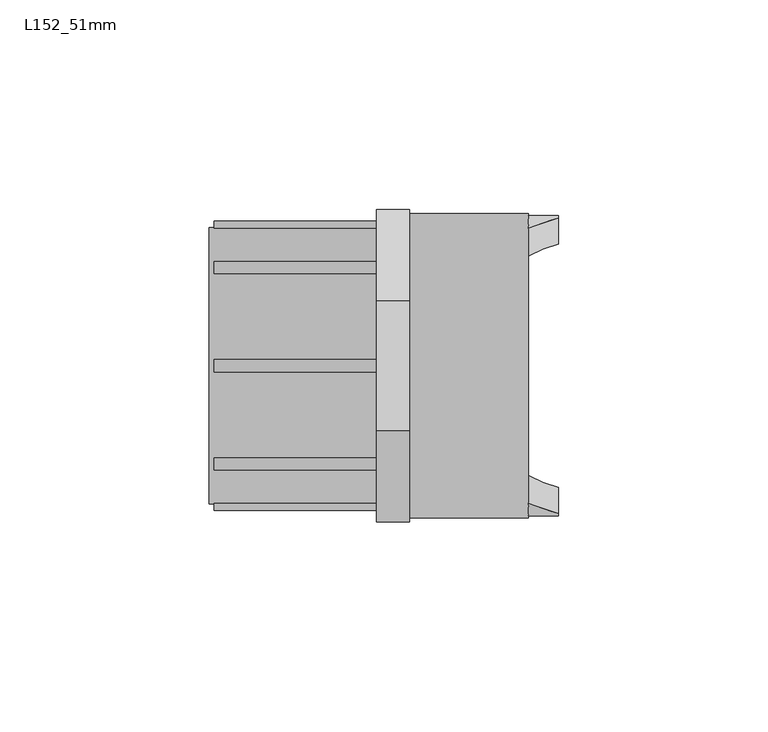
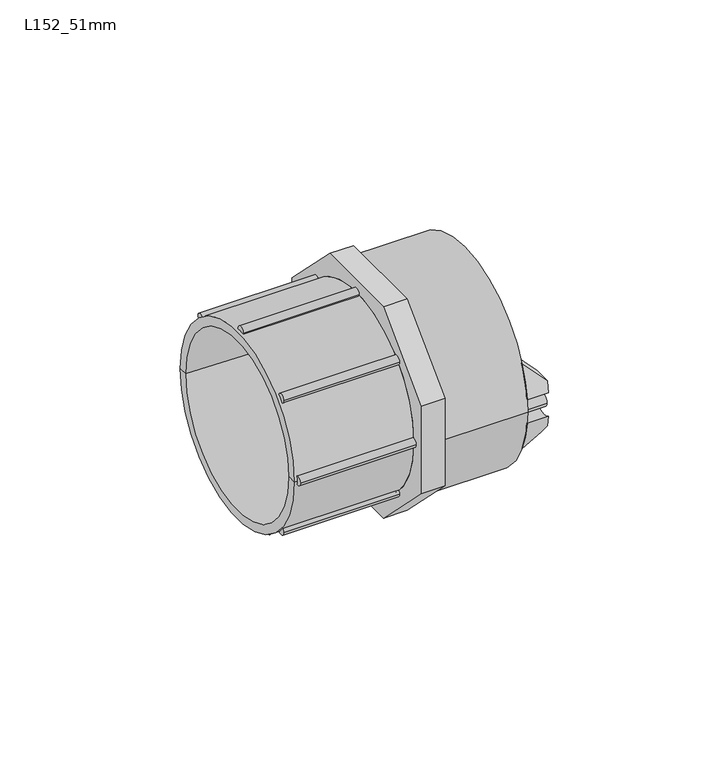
"""IFC4 building model written with IfcOpenShell, lengths in millimetres: pipe fitting geometry, Durapipe_PipeFitting_VulcatheneEnfusion_FItoPipeCoupler_L15 : L152_51mm."""

from ifc_helpers import new_model, si_unit, point, frame, frame_2d, origin, place, context, project, spatial, polyline, circle_curve, ellipse_curve, trimmed, segment, composite_curve, outline, extrude, source, transform, mapped, element, save
from ifc_brep_helpers import plane_surface, cylinder_surface, revolved_surface, advanced_brep


def l152_51mm_e40eead8(model_context):
    return source(origin(), model_context, "Body", "SolidModel", [
        extrude(outline(composite_curve([segment(trimmed(circle_curve(frame_2d((-33.0, 0.0)), 1.5), [point((-31.5, 0.0))], [point((-34.5, 0.0))], False, "CARTESIAN"), True, "CONTINUOUS"), segment(trimmed(circle_curve(frame_2d((-33.0, 0.0)), 1.5), [point((-34.5, 0.0))], [point((-31.5, 0.0))], False, "CARTESIAN"), True, "CONTINUOUS")], self_intersect=False)), frame((-36.909375, 0.0, 0.0), z_axis=(1.0, 0.0, 0.0), x_axis=(0.0, 1.0, 0.0)), (0.0, 0.0, 1.0), 38.7189),
        extrude(outline(composite_curve([segment(trimmed(circle_curve(frame_2d((-23.3345238, -23.3345238)), 1.5), [point((-21.8345238, -23.3345238))], [point((-24.8345238, -23.3345238))], False, "CARTESIAN"), True, "CONTINUOUS"), segment(trimmed(circle_curve(frame_2d((-23.3345238, -23.3345238)), 1.5), [point((-24.8345238, -23.3345238))], [point((-21.8345238, -23.3345238))], False, "CARTESIAN"), True, "CONTINUOUS")], self_intersect=False)), frame((-36.909375, 0.0, 0.0), z_axis=(1.0, 0.0, 0.0), x_axis=(0.0, 1.0, 0.0)), (0.0, 0.0, 1.0), 38.7189),
        extrude(outline(composite_curve([segment(trimmed(circle_curve(frame_2d((0.0, -33.0)), 1.5), [point((1.5, -33.0))], [point((-1.5, -33.0))], False, "CARTESIAN"), True, "CONTINUOUS"), segment(trimmed(circle_curve(frame_2d((0.0, -33.0)), 1.5), [point((-1.5, -33.0))], [point((1.5, -33.0))], False, "CARTESIAN"), True, "CONTINUOUS")], self_intersect=False)), frame((-36.909375, 0.0, 0.0), z_axis=(1.0, 0.0, 0.0), x_axis=(0.0, 1.0, 0.0)), (0.0, 0.0, 1.0), 38.7189),
        extrude(outline(composite_curve([segment(trimmed(circle_curve(frame_2d((23.3345238, -23.3345238)), 1.5), [point((24.8345238, -23.3345238))], [point((21.8345238, -23.3345238))], False, "CARTESIAN"), True, "CONTINUOUS"), segment(trimmed(circle_curve(frame_2d((23.3345238, -23.3345238)), 1.5), [point((21.8345238, -23.3345238))], [point((24.8345238, -23.3345238))], False, "CARTESIAN"), True, "CONTINUOUS")], self_intersect=False)), frame((-36.909375, 0.0, 0.0), z_axis=(1.0, 0.0, 0.0), x_axis=(0.0, 1.0, 0.0)), (0.0, 0.0, 1.0), 38.7189),
        extrude(outline(composite_curve([segment(trimmed(circle_curve(frame_2d((33.0, 0.0)), 1.5), [point((34.5, 0.0))], [point((31.5, 0.0))], False, "CARTESIAN"), True, "CONTINUOUS"), segment(trimmed(circle_curve(frame_2d((33.0, 0.0)), 1.5), [point((31.5, 0.0))], [point((34.5, 0.0))], False, "CARTESIAN"), True, "CONTINUOUS")], self_intersect=False)), frame((-36.909375, 0.0, 0.0), z_axis=(1.0, 0.0, 0.0), x_axis=(0.0, 1.0, 0.0)), (0.0, 0.0, 1.0), 38.7189),
        extrude(outline(composite_curve([segment(trimmed(circle_curve(frame_2d((23.3345238, 23.3345238)), 1.5), [point((24.8345238, 23.3345238))], [point((21.8345238, 23.3345238))], False, "CARTESIAN"), True, "CONTINUOUS"), segment(trimmed(circle_curve(frame_2d((23.3345238, 23.3345238)), 1.5), [point((21.8345238, 23.3345238))], [point((24.8345238, 23.3345238))], False, "CARTESIAN"), True, "CONTINUOUS")], self_intersect=False)), frame((-36.909375, 0.0, 0.0), z_axis=(1.0, 0.0, 0.0), x_axis=(0.0, 1.0, 0.0)), (0.0, 0.0, 1.0), 38.7189),
        extrude(outline(composite_curve([segment(trimmed(circle_curve(frame_2d((0.0, 33.0)), 1.5), [point((1.5, 33.0))], [point((-1.5, 33.0))], False, "CARTESIAN"), True, "CONTINUOUS"), segment(trimmed(circle_curve(frame_2d((0.0, 33.0)), 1.5), [point((-1.5, 33.0))], [point((1.5, 33.0))], False, "CARTESIAN"), True, "CONTINUOUS")], self_intersect=False)), frame((-36.909375, 0.0, 0.0), z_axis=(1.0, 0.0, 0.0), x_axis=(0.0, 1.0, 0.0)), (0.0, 0.0, 1.0), 38.7189),
        extrude(outline(composite_curve([segment(trimmed(circle_curve(frame_2d((-23.3345238, 23.3345238)), 1.5), [point((-21.8345238, 23.3345238))], [point((-24.8345238, 23.3345238))], False, "CARTESIAN"), True, "CONTINUOUS"), segment(trimmed(circle_curve(frame_2d((-23.3345238, 23.3345238)), 1.5), [point((-24.8345238, 23.3345238))], [point((-21.8345238, 23.3345238))], False, "CARTESIAN"), True, "CONTINUOUS")], self_intersect=False)), frame((-36.909375, 0.0, 0.0), z_axis=(1.0, 0.0, 0.0), x_axis=(0.0, 1.0, 0.0)), (0.0, 0.0, 1.0), 38.7189),
        advanced_brep(
        [(45.2, 29.9086727, 3.807072), (45.2, 35.9086727, 4.1700989), (45.2, 35.2672497, 7.94), (45.2, 29.0857164, 7.94), (38.1, 32.8910702, 15.0), (38.1, 35.9086727, 4.1700989), (38.1, 29.9086727, 3.807072), (38.1, 26.1538238, 15.0)],
        [
            (0, 1, circle_curve(frame((45.2, 33.15, 0.0), z_axis=(-1.0, 0.0, 0.0), x_axis=(0.0, -1.0, 0.0)), 5.0)),
            (1, 2, circle_curve(frame((45.2, 0.0, 0.0), z_axis=(1.0, 0.0, 0.0), x_axis=(0.0, -1.0, 0.0)), 36.15)),
            (2, 3),
            (3, 0, circle_curve(frame((45.2, 0.0, 0.0), z_axis=(-1.0, 0.0, 0.0), x_axis=(0.0, -1.0, 0.0)), 30.15)),
            (4, 5, circle_curve(frame((38.1, 0.0, 0.0), z_axis=(-1.0, 0.0, 0.0), x_axis=(0.0, -1.0, 0.0)), 36.15)),
            (5, 6, circle_curve(frame((38.1, 33.15, 0.0), z_axis=(1.0, 0.0, 0.0), x_axis=(0.0, -1.0, 0.0)), 5.0)),
            (6, 7, circle_curve(frame((38.1, 0.0, 0.0), z_axis=(1.0, 0.0, 0.0), x_axis=(0.0, -1.0, 0.0)), 30.15)),
            (7, 4),
            (6, 0),
            (3, 7, ellipse_curve(frame((53.1849858, 0.0, 0.0), z_axis=(0.7051064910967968, 0.0, 0.7091014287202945), x_axis=(-0.7091014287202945, 0.0, 0.7051064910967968)), 42.7594986, 30.15)),
            (4, 2, ellipse_curve(frame((53.1849858, 0.0, 0.0), z_axis=(-0.7051064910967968, 0.0, -0.7091014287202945), x_axis=(0.7091014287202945, 0.0, -0.7051064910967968)), 51.2688515, 36.15)),
            (1, 5),
        ],
        [
            plane_surface(frame((45.2, 32.8910702, 15.0), z_axis=(1.0, 0.0, 0.0), x_axis=(0.0, -1.0, 0.0))),
            plane_surface(frame((38.1, 32.8910702, 15.0), z_axis=(-1.0, 0.0, 0.0), x_axis=(0.0, 1.0, 0.0))),
            revolved_surface(polyline([(22.864164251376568, -30.15, 0.0), (83.50580734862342, -30.15, 0.0)]), (38.1, 0.0, 0.0), (-1.0, 0.0, 0.0)),
            cylinder_surface(frame((38.1, 0.0, 0.0), z_axis=(1.0, 0.0, 0.0), x_axis=(0.0, -1.0, 0.0)), 36.15),
            revolved_surface(polyline([(45.2, 28.15, 0.0), (38.1, 28.15, 0.0)]), (38.1, 33.15, 0.0), (1.0, 0.0, 0.0)),
            plane_surface(frame((38.1, -36.15, 15.0), z_axis=(0.7051064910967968, 0.0, 0.7091014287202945), x_axis=(0.0, 1.0, 0.0))),
        ],
        [
            (0, [[1, 2, 3, 4]]),
            (1, [[5, 6, 7, 8]]),
            (2, [[-7, 9, -4, 10]]),
            (3, [[-5, 11, -2, 12]]),
            (4, [[-1, -9, -6, -12]]),
            (5, [[-3, -11, -8, -10]]),
        ],
    ),
        advanced_brep(
        [(45.2, 35.9086727, -4.1700989), (45.2, 29.9086727, -3.807072), (45.2, 29.0857164, -7.94), (45.2, 35.2672497, -7.94), (38.1, 35.9086727, -4.1700989), (38.1, 32.8910702, -15.0), (38.1, 26.1538238, -15.0), (38.1, 29.9086727, -3.807072)],
        [
            (0, 1, circle_curve(frame((45.2, 33.15, 0.0), z_axis=(-1.0, 0.0, 0.0), x_axis=(0.0, -1.0, 0.0)), 5.0)),
            (1, 2, circle_curve(frame((45.2, 0.0, 0.0), z_axis=(-1.0, 0.0, 0.0), x_axis=(0.0, -1.0, 0.0)), 30.15)),
            (2, 3),
            (3, 0, circle_curve(frame((45.2, 0.0, 0.0), z_axis=(1.0, 0.0, 0.0), x_axis=(0.0, -1.0, 0.0)), 36.15)),
            (4, 5, circle_curve(frame((38.1, 0.0, 0.0), z_axis=(-1.0, 0.0, 0.0), x_axis=(0.0, -1.0, 0.0)), 36.15)),
            (5, 6),
            (6, 7, circle_curve(frame((38.1, 0.0, 0.0), z_axis=(1.0, 0.0, 0.0), x_axis=(0.0, -1.0, 0.0)), 30.15)),
            (7, 4, circle_curve(frame((38.1, 33.15, 0.0), z_axis=(1.0, 0.0, 0.0), x_axis=(0.0, -1.0, 0.0)), 5.0)),
            (6, 2, ellipse_curve(frame((53.1849858, 0.0, 0.0), z_axis=(0.7051064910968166, 0.0, -0.7091014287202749), x_axis=(-0.7091014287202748, 0.0, -0.7051064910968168)), 42.7594986, 30.15)),
            (1, 7),
            (4, 0),
            (3, 5, ellipse_curve(frame((53.1849858, 0.0, 0.0), z_axis=(-0.7051064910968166, 0.0, 0.7091014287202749), x_axis=(0.7091014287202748, 0.0, 0.7051064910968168)), 51.2688515, 36.15)),
        ],
        [
            plane_surface(frame((45.2, 32.8910702, 15.0), z_axis=(1.0, 0.0, 0.0), x_axis=(0.0, -1.0, 0.0))),
            plane_surface(frame((38.1, 32.8910702, 15.0), z_axis=(-1.0, 0.0, 0.0), x_axis=(0.0, 1.0, 0.0))),
            revolved_surface(polyline([(22.86416425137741, -30.15, 0.0), (83.5058073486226, -30.15, 0.0)]), (38.1, 0.0, 0.0), (-1.0, 0.0, 0.0)),
            cylinder_surface(frame((38.1, 0.0, 0.0), z_axis=(1.0, 0.0, 0.0), x_axis=(0.0, -1.0, 0.0)), 36.15),
            revolved_surface(polyline([(45.2, 28.15, 0.0), (38.1, 28.15, 0.0)]), (38.1, 33.15, 0.0), (1.0, 0.0, 0.0)),
            plane_surface(frame((45.2, -36.15, -7.94), z_axis=(0.7051064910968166, 0.0, -0.7091014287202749), x_axis=(0.0, 1.0, 0.0))),
        ],
        [
            (0, [[1, 2, 3, 4]]),
            (1, [[5, 6, 7, 8]]),
            (2, [[-7, 9, -2, 10]]),
            (3, [[-5, 11, -4, 12]]),
            (4, [[-1, -11, -8, -10]]),
            (5, [[-3, -9, -6, -12]]),
        ],
    ),
        advanced_brep(
        [(45.2, -35.9086727, 4.1700989), (45.2, -29.9086727, 3.807072), (45.2, -29.0857164, 7.94), (45.2, -35.2672497, 7.94), (38.1, -35.9086727, 4.1700989), (38.1, -32.8910702, 15.0), (38.1, -26.1538238, 15.0), (38.1, -29.9086727, 3.807072)],
        [
            (0, 1, circle_curve(frame((45.2, -33.15, 0.0), z_axis=(-1.0, 0.0, 0.0), x_axis=(0.0, -1.0, 0.0)), 5.0)),
            (1, 2, circle_curve(frame((45.2, 0.0, 0.0), z_axis=(-1.0, 0.0, 0.0), x_axis=(0.0, -1.0, 0.0)), 30.15)),
            (2, 3),
            (3, 0, circle_curve(frame((45.2, 0.0, 0.0), z_axis=(1.0, 0.0, 0.0), x_axis=(0.0, -1.0, 0.0)), 36.15)),
            (4, 5, circle_curve(frame((38.1, 0.0, 0.0), z_axis=(-1.0, 0.0, 0.0), x_axis=(0.0, -1.0, 0.0)), 36.15)),
            (5, 6),
            (6, 7, circle_curve(frame((38.1, 0.0, 0.0), z_axis=(1.0, 0.0, 0.0), x_axis=(0.0, -1.0, 0.0)), 30.15)),
            (7, 4, circle_curve(frame((38.1, -33.15, 0.0), z_axis=(1.0, 0.0, 0.0), x_axis=(0.0, -1.0, 0.0)), 5.0)),
            (6, 2, ellipse_curve(frame((53.1849858, 0.0, 0.0), z_axis=(0.7051064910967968, 0.0, 0.7091014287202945), x_axis=(-0.7091014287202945, 0.0, 0.7051064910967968)), 42.7594986, 30.15)),
            (1, 7),
            (4, 0),
            (3, 5, ellipse_curve(frame((53.1849858, 0.0, 0.0), z_axis=(-0.7051064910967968, 0.0, -0.7091014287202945), x_axis=(0.7091014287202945, 0.0, -0.7051064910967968)), 51.2688515, 36.15)),
        ],
        [
            plane_surface(frame((45.2, 32.8910702, 15.0), z_axis=(1.0, 0.0, 0.0), x_axis=(0.0, -1.0, 0.0))),
            plane_surface(frame((38.1, 32.8910702, 15.0), z_axis=(-1.0, 0.0, 0.0), x_axis=(0.0, 1.0, 0.0))),
            revolved_surface(polyline([(22.864164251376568, -30.15, 0.0), (83.50580734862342, -30.15, 0.0)]), (38.1, 0.0, 0.0), (-1.0, 0.0, 0.0)),
            cylinder_surface(frame((38.1, 0.0, 0.0), z_axis=(1.0, 0.0, 0.0), x_axis=(0.0, -1.0, 0.0)), 36.15),
            revolved_surface(polyline([(45.2, -38.15, 0.0), (38.1, -38.15, 0.0)]), (38.1, -33.15, 0.0), (1.0, 0.0, 0.0)),
            plane_surface(frame((38.1, -36.15, 15.0), z_axis=(0.7051064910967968, 0.0, 0.7091014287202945), x_axis=(0.0, 1.0, 0.0))),
        ],
        [
            (0, [[1, 2, 3, 4]]),
            (1, [[5, 6, 7, 8]]),
            (2, [[-7, 9, -2, 10]]),
            (3, [[-5, 11, -4, 12]]),
            (4, [[-1, -11, -8, -10]]),
            (5, [[-3, -9, -6, -12]]),
        ],
    ),
        advanced_brep(
        [(45.2, -29.9086727, -3.807072), (45.2, -35.9086727, -4.1700989), (45.2, -35.2672497, -7.94), (45.2, -29.0857164, -7.94), (38.1, -32.8910702, -15.0), (38.1, -35.9086727, -4.1700989), (38.1, -29.9086727, -3.807072), (38.1, -26.1538238, -15.0)],
        [
            (0, 1, circle_curve(frame((45.2, -33.15, 0.0), z_axis=(-1.0, 0.0, 0.0), x_axis=(0.0, -1.0, 0.0)), 5.0)),
            (1, 2, circle_curve(frame((45.2, 0.0, 0.0), z_axis=(1.0, 0.0, 0.0), x_axis=(0.0, -1.0, 0.0)), 36.15)),
            (2, 3),
            (3, 0, circle_curve(frame((45.2, 0.0, 0.0), z_axis=(-1.0, 0.0, 0.0), x_axis=(0.0, -1.0, 0.0)), 30.15)),
            (4, 5, circle_curve(frame((38.1, 0.0, 0.0), z_axis=(-1.0, 0.0, 0.0), x_axis=(0.0, -1.0, 0.0)), 36.15)),
            (5, 6, circle_curve(frame((38.1, -33.15, 0.0), z_axis=(1.0, 0.0, 0.0), x_axis=(0.0, -1.0, 0.0)), 5.0)),
            (6, 7, circle_curve(frame((38.1, 0.0, 0.0), z_axis=(1.0, 0.0, 0.0), x_axis=(0.0, -1.0, 0.0)), 30.15)),
            (7, 4),
            (6, 0),
            (3, 7, ellipse_curve(frame((53.1849858, 0.0, 0.0), z_axis=(0.7051064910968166, 0.0, -0.7091014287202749), x_axis=(-0.7091014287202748, 0.0, -0.7051064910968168)), 42.7594986, 30.15)),
            (4, 2, ellipse_curve(frame((53.1849858, 0.0, 0.0), z_axis=(-0.7051064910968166, 0.0, 0.7091014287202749), x_axis=(0.7091014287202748, 0.0, 0.7051064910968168)), 51.2688515, 36.15)),
            (1, 5),
        ],
        [
            plane_surface(frame((45.2, 32.8910702, 15.0), z_axis=(1.0, 0.0, 0.0), x_axis=(0.0, -1.0, 0.0))),
            plane_surface(frame((38.1, 32.8910702, 15.0), z_axis=(-1.0, 0.0, 0.0), x_axis=(0.0, 1.0, 0.0))),
            revolved_surface(polyline([(22.86416425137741, -30.15, 0.0), (83.5058073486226, -30.15, 0.0)]), (38.1, 0.0, 0.0), (-1.0, 0.0, 0.0)),
            cylinder_surface(frame((38.1, 0.0, 0.0), z_axis=(1.0, 0.0, 0.0), x_axis=(0.0, -1.0, 0.0)), 36.15),
            revolved_surface(polyline([(45.2, -38.15, 0.0), (38.1, -38.15, 0.0)]), (38.1, -33.15, 0.0), (1.0, 0.0, 0.0)),
            plane_surface(frame((45.2, -36.15, -7.94), z_axis=(0.7051064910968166, 0.0, -0.7091014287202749), x_axis=(0.0, 1.0, 0.0))),
        ],
        [
            (0, [[1, 2, 3, 4]]),
            (1, [[5, 6, 7, 8]]),
            (2, [[-7, 9, -4, 10]]),
            (3, [[-5, 11, -2, 12]]),
            (4, [[-1, -9, -6, -12]]),
            (5, [[-3, -11, -8, -10]]),
        ],
    ),
        extrude(outline(composite_curve([segment(trimmed(circle_curve(frame_2d((33.15, 0.0)), 2.0), [point((35.15, 0.0))], [point((31.15, 0.0))], False, "CARTESIAN"), True, "CONTINUOUS"), segment(trimmed(circle_curve(frame_2d((33.15, 0.0)), 2.0), [point((31.15, 0.0))], [point((35.15, 0.0))], False, "CARTESIAN"), True, "CONTINUOUS")], self_intersect=False)), frame((38.1, 0.0, 0.0), z_axis=(1.0, 0.0, 0.0), x_axis=(0.0, 1.0, 0.0)), (0.0, 0.0, 1.0), 7.1),
        extrude(outline(composite_curve([segment(trimmed(circle_curve(frame_2d((-33.15, 0.0)), 2.0), [point((-31.15, 0.0))], [point((-35.15, 0.0))], False, "CARTESIAN"), True, "CONTINUOUS"), segment(trimmed(circle_curve(frame_2d((-33.15, 0.0)), 2.0), [point((-35.15, 0.0))], [point((-31.15, 0.0))], False, "CARTESIAN"), True, "CONTINUOUS")], self_intersect=False)), frame((38.1, 0.0, 0.0), z_axis=(1.0, 0.0, 0.0), x_axis=(0.0, 1.0, 0.0)), (0.0, 0.0, 1.0), 7.1),
        advanced_brep(
        [(38.1, 36.3, 0.0), (38.1, -36.3, 0.0), (9.747025, -36.3, 0.0), (9.747025, 36.3, 0.0), (-38.1, -30.0, 0.0), (-38.1, 30.0, 0.0), (-38.1, 33.05, 0.0), (-38.1, -33.05, 0.0), (38.1, 30.0, 0.0), (38.1, -30.0, 0.0), (12.7, -26.0, 0.0), (12.7, 26.0, 0.0), (10.7, 26.0, 0.0), (10.7, -26.0, 0.0), (12.7, -30.0, 0.0), (12.7, 30.0, 0.0), (4.8, -28.75, 0.0), (4.8, 28.75, 0.0), (1.809525, 15.4708766, 37.35), (1.809525, 37.35, 15.4708766), (1.809525, 37.35, -15.4708766), (1.809525, 15.4708766, -37.35), (1.809525, -15.4708766, -37.35), (1.809525, -37.35, -15.4708766), (1.809525, -37.35, 15.4708766), (1.809525, -15.4708766, 37.35), (1.809525, -33.05, 0.0), (1.809525, 33.05, 0.0), (9.747025, 15.4708766, 37.35), (9.747025, -15.4708766, 37.35), (9.747025, -37.35, 15.4708766), (9.747025, -37.35, -15.4708766), (9.747025, -15.4708766, -37.35), (9.747025, 15.4708766, -37.35), (9.747025, 37.35, -15.4708766), (9.747025, 37.35, 15.4708766)],
        [
            (0, 1, circle_curve(frame((38.1, 0.0, 0.0), z_axis=(-1.0, 0.0, 0.0), x_axis=(0.0, 1.0, 0.0)), 36.3)),
            (1, 2),
            (2, 3, circle_curve(frame((9.747025, 0.0, 0.0), z_axis=(1.0, 0.0, 0.0), x_axis=(0.0, 1.0, 0.0)), 36.3)),
            (3, 0),
            (1, 0, circle_curve(frame((38.1, 0.0, 0.0), z_axis=(-1.0, 0.0, 0.0), x_axis=(0.0, 1.0, 0.0)), 36.3)),
            (3, 2, circle_curve(frame((9.747025, 0.0, 0.0), z_axis=(1.0, 0.0, 0.0), x_axis=(0.0, 1.0, 0.0)), 36.3)),
            (4, 5, circle_curve(frame((-38.1, 0.0, 0.0), z_axis=(1.0, 0.0, 0.0), x_axis=(0.0, 1.0, 0.0)), 30.0)),
            (5, 6),
            (6, 7, circle_curve(frame((-38.1, 0.0, 0.0), z_axis=(-1.0, 0.0, 0.0), x_axis=(0.0, 1.0, 0.0)), 33.05)),
            (7, 4),
            (5, 4, circle_curve(frame((-38.1, 0.0, 0.0), z_axis=(1.0, 0.0, 0.0), x_axis=(0.0, 1.0, 0.0)), 30.0)),
            (7, 6, circle_curve(frame((-38.1, 0.0, 0.0), z_axis=(-1.0, 0.0, 0.0), x_axis=(0.0, 1.0, 0.0)), 33.05)),
            (0, 8),
            (8, 9, circle_curve(frame((38.1, 0.0, 0.0), z_axis=(-1.0, 0.0, 0.0), x_axis=(0.0, 1.0, 0.0)), 30.0)),
            (9, 1),
            (9, 8, circle_curve(frame((38.1, 0.0, 0.0), z_axis=(-1.0, 0.0, 0.0), x_axis=(0.0, 1.0, 0.0)), 30.0)),
            (10, 11, circle_curve(frame((12.7, 0.0, 0.0), z_axis=(1.0, 0.0, 0.0), x_axis=(0.0, 1.0, 0.0)), 26.0)),
            (11, 12),
            (12, 13, circle_curve(frame((10.7, 0.0, 0.0), z_axis=(-1.0, 0.0, 0.0), x_axis=(0.0, 1.0, 0.0)), 26.0)),
            (13, 10),
            (11, 10, circle_curve(frame((12.7, 0.0, 0.0), z_axis=(1.0, 0.0, 0.0), x_axis=(0.0, 1.0, 0.0)), 26.0)),
            (13, 12, circle_curve(frame((10.7, 0.0, 0.0), z_axis=(-1.0, 0.0, 0.0), x_axis=(0.0, 1.0, 0.0)), 26.0)),
            (10, 14),
            (14, 15, circle_curve(frame((12.7, 0.0, 0.0), z_axis=(1.0, 0.0, 0.0), x_axis=(0.0, 1.0, 0.0)), 30.0)),
            (15, 11),
            (15, 14, circle_curve(frame((12.7, 0.0, 0.0), z_axis=(1.0, 0.0, 0.0), x_axis=(0.0, 1.0, 0.0)), 30.0)),
            (8, 15),
            (14, 9),
            (4, 16),
            (16, 17, circle_curve(frame((4.8, 0.0, 0.0), z_axis=(1.0, 0.0, 0.0), x_axis=(0.0, 1.0, 0.0)), 28.75)),
            (17, 5),
            (17, 16, circle_curve(frame((4.8, 0.0, 0.0), z_axis=(1.0, 0.0, 0.0), x_axis=(0.0, 1.0, 0.0)), 28.75)),
            (12, 17),
            (16, 13),
            (18, 19),
            (19, 20),
            (20, 21),
            (21, 22),
            (22, 23),
            (23, 24),
            (24, 25),
            (25, 18),
            (26, 27, circle_curve(frame((1.809525, 0.0, 0.0), z_axis=(1.0, 0.0, 0.0), x_axis=(0.0, 1.0, 0.0)), 33.05)),
            (27, 26, circle_curve(frame((1.809525, 0.0, 0.0), z_axis=(1.0, 0.0, 0.0), x_axis=(0.0, 1.0, 0.0)), 33.05)),
            (6, 27),
            (26, 7),
            (28, 29),
            (29, 30),
            (30, 31),
            (31, 32),
            (32, 33),
            (33, 34),
            (34, 35),
            (35, 28),
            (28, 18),
            (25, 29),
            (24, 30),
            (23, 31),
            (22, 32),
            (21, 33),
            (20, 34),
            (19, 35),
        ],
        [
            cylinder_surface(frame((1575.2518184, 0.0, 0.0), z_axis=(-1.0, 0.0, 0.0), x_axis=(0.0, 1.0, 0.0)), 36.3),
            plane_surface(frame((-38.1, 0.0, 0.0), z_axis=(-1.0, 0.0, 0.0), x_axis=(0.0, 1.0, 0.0))),
            plane_surface(frame((38.1, 0.0, 0.0), z_axis=(1.0, 0.0, 0.0), x_axis=(0.0, 1.0, 0.0))),
            revolved_surface(polyline([(10.700000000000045, 26.0, 0.0), (12.700000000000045, 26.0, 0.0)]), (1575.2518184, 0.0, 0.0), (-1.0, 0.0, 0.0)),
            plane_surface(frame((12.7, 0.0, 0.0), z_axis=(1.0, 0.0, 0.0), x_axis=(0.0, 1.0, 0.0))),
            revolved_surface(polyline([(12.700000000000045, 30.0, 0.0), (38.09999999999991, 30.0, 0.0)]), (1575.2518184, 0.0, 0.0), (-1.0, 0.0, 0.0)),
            revolved_surface(polyline([(-38.1, 30.0, 0.0), (4.8, 28.75, 0.0)]), (1575.2518184, 0.0, 0.0), (-1.0, 0.0, 0.0)),
            revolved_surface(polyline([(4.8, 28.75, 0.0), (10.7, 26.0, 0.0)]), (1575.2518184, 0.0, 0.0), (-1.0, 0.0, 0.0)),
            plane_surface(frame((1.809525, 0.0, 0.0), z_axis=(-1.0, 0.0, 0.0), x_axis=(0.0, 1.0, 0.0))),
            cylinder_surface(frame((1575.2518184, 0.0, 0.0), z_axis=(-1.0, 0.0, 0.0), x_axis=(0.0, 1.0, 0.0)), 33.05),
            plane_surface(frame((9.747025, 15.4708766, 37.35), z_axis=(1.0, 0.0, 0.0), x_axis=(0.0, -1.0, 0.0))),
            plane_surface(frame((9.747025, 15.4708766, 37.35), z_axis=(0.0, 0.0, 1.0), x_axis=(-1.0, 0.0, 0.0))),
            plane_surface(frame((9.747025, -15.4708766, 37.35), z_axis=(0.0, -0.7071067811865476, 0.7071067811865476), x_axis=(-1.0, 0.0, 0.0))),
            plane_surface(frame((9.747025, -37.35, 15.4708766), z_axis=(0.0, -1.0, 0.0), x_axis=(-1.0, 0.0, 0.0))),
            plane_surface(frame((9.747025, -37.35, -15.4708766), z_axis=(0.0, -0.7071067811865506, -0.7071067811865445), x_axis=(-1.0, 0.0, 0.0))),
            plane_surface(frame((9.747025, -15.4708766, -37.35), z_axis=(0.0, 0.0, -1.0), x_axis=(-1.0, 0.0, 0.0))),
            plane_surface(frame((9.747025, 15.4708766, -37.35), z_axis=(0.0, 0.7071067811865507, -0.7071067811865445), x_axis=(-1.0, 0.0, 0.0))),
            plane_surface(frame((9.747025, 37.35, -15.4708766), z_axis=(0.0, 1.0, 0.0), x_axis=(-1.0, 0.0, 0.0))),
            plane_surface(frame((9.747025, 37.35, 15.4708766), z_axis=(0.0, 0.7071067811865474, 0.7071067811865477), x_axis=(-1.0, 0.0, 0.0))),
        ],
        [
            (0, [[1, 2, 3, 4]]),
            (0, [[5, -4, 6, -2]]),
            (1, [[7, 8, 9, 10]]),
            (1, [[-8, 11, -10, 12]]),
            (2, [[-1, 13, 14, 15]]),
            (2, [[-5, -15, 16, -13]]),
            (3, [[17, 18, 19, 20]]),
            (3, [[-18, 21, -20, 22]]),
            (4, [[-17, 23, 24, 25]]),
            (4, [[-21, -25, 26, -23]]),
            (5, [[-14, 27, -24, 28]]),
            (5, [[-16, -28, -26, -27]]),
            (6, [[-7, 29, 30, 31]]),
            (6, [[-11, -31, 32, -29]]),
            (7, [[-19, 33, -30, 34]]),
            (7, [[-22, -34, -32, -33]]),
            (8, [[35, 36, 37, 38, 39, 40, 41, 42], [43, 44]]),
            (9, [[-9, 45, -43, 46]]),
            (9, [[-12, -46, -44, -45]]),
            (10, [[47, 48, 49, 50, 51, 52, 53, 54], [-3, -6]]),
            (11, [[-47, 55, -42, 56]]),
            (12, [[-48, -56, -41, 57]]),
            (13, [[-49, -57, -40, 58]]),
            (14, [[-50, -58, -39, 59]]),
            (15, [[-51, -59, -38, 60]]),
            (16, [[-52, -60, -37, 61]]),
            (17, [[-53, -61, -36, 62]]),
            (18, [[-54, -62, -35, -55]]),
        ],
    ),
    ])


if __name__ == "__main__":
    model = new_model("IFC4")
    model_context = context("Model", 3, world=origin())
    ifc_project = project(units=[si_unit("LENGTHUNIT", "METRE", prefix="MILLI")], contexts=[model_context])
    site = spatial("IfcSite", under=ifc_project)
    building = spatial("IfcBuilding", under=site)
    placement = place(None, origin())
    l152_51mm_shape = l152_51mm_e40eead8(model_context)
    element("IfcPipeFitting", 1, ObjectType="Durapipe_PipeFitting_VulcatheneEnfusion_FItoPipeCoupler_L15 : L152_51mm", at=placement, inside=building, context=model_context, shape_type="MappedRepresentation", body=[
        mapped(l152_51mm_shape, transform((0.0, 0.0, 0.0), x_axis=(1.0, 0.0, 0.0), y_axis=(0.0, 1.0, 0.0), z_axis=(0.0, 0.0, 1.0))),
    ])
    save(model, "model.ifc")
